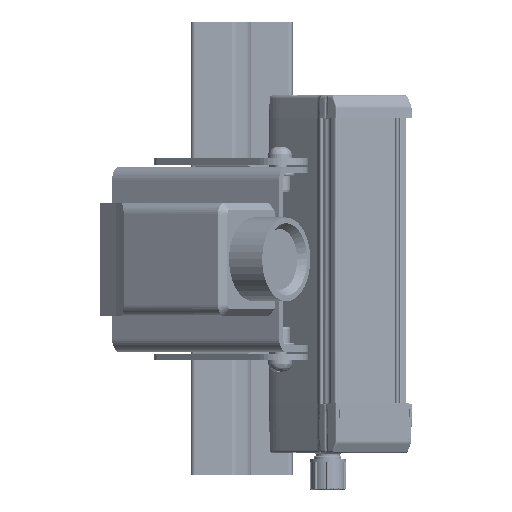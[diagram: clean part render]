
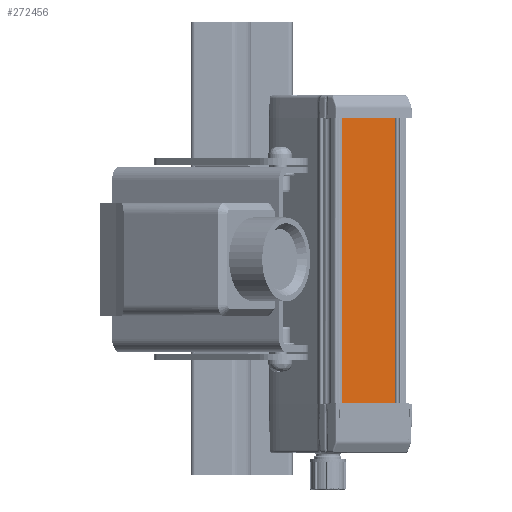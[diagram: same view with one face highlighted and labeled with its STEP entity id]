
A CAD part, left-side view. The second image highlights one B-rep face of the part: STEP entity #272456.
In plain terms, the highlighted planar face has unit normal (-0.707, -0.707, 0) as drawn and (0, 1, 0) by its records, which use the part's own axes.
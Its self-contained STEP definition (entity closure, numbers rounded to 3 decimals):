
#7477 = CARTESIAN_POINT ( 'NONE',  ( 19.2, 17., 131. ) ) ;
#12164 = EDGE_CURVE ( 'NONE', #197133, #236428, #110818, .T. ) ;
#14074 = EDGE_CURVE ( 'NONE', #236428, #271314, #172554, .T. ) ;
#17682 = EDGE_LOOP ( 'NONE', ( #127989, #29666, #106423, #296023 ) ) ;
#28019 = CARTESIAN_POINT ( 'NONE',  ( 19.2, 17., -5. ) ) ;
#29666 = ORIENTED_EDGE ( 'NONE', *, *, #158759, .T. ) ;
#33329 = CARTESIAN_POINT ( 'NONE',  ( 19.2, 17., -5. ) ) ;
#89325 = DIRECTION ( 'NONE',  ( 0., 0., 1. ) ) ;
#89711 = CARTESIAN_POINT ( 'NONE',  ( 19.2, 17., -5. ) ) ;
#106423 = ORIENTED_EDGE ( 'NONE', *, *, #180571, .T. ) ;
#110818 = LINE ( 'NONE', #89711, #172663 ) ;
#125023 = DIRECTION ( 'NONE',  ( 0., 1., 0. ) ) ;
#127989 = ORIENTED_EDGE ( 'NONE', *, *, #14074, .T. ) ;
#136094 = CARTESIAN_POINT ( 'NONE',  ( -18.9, 17., 131. ) ) ;
#141839 = FACE_OUTER_BOUND ( 'NONE', #17682, .T. ) ;
#148468 = DIRECTION ( 'NONE',  ( 1., 0., 0. ) ) ;
#152693 = CARTESIAN_POINT ( 'NONE',  ( 19.2, 17., 131. ) ) ;
#157401 = CARTESIAN_POINT ( 'NONE',  ( -18.9, 17., -5. ) ) ;
#158759 = EDGE_CURVE ( 'NONE', #271314, #236081, #204130, .T. ) ;
#172554 = LINE ( 'NONE', #33329, #251375 ) ;
#172663 = VECTOR ( 'NONE', #269751, 1000. ) ;
#180571 = EDGE_CURVE ( 'NONE', #236081, #197133, #287666, .T. ) ;
#195299 = CARTESIAN_POINT ( 'NONE',  ( -18.9, 17., -5. ) ) ;
#197133 = VERTEX_POINT ( 'NONE', #152693 ) ;
#204130 = LINE ( 'NONE', #157401, #265813 ) ;
#219403 = DIRECTION ( 'NONE',  ( -1., 0., 0. ) ) ;
#231964 = AXIS2_PLACEMENT_3D ( 'NONE', #285578, #125023, #259736 ) ;
#234086 = PLANE ( 'NONE',  #231964 ) ;
#236081 = VERTEX_POINT ( 'NONE', #136094 ) ;
#236428 = VERTEX_POINT ( 'NONE', #28019 ) ;
#249451 = VECTOR ( 'NONE', #148468, 1000. ) ;
#251375 = VECTOR ( 'NONE', #219403, 1000. ) ;
#259736 = DIRECTION ( 'NONE',  ( 0., 0., 1. ) ) ;
#265813 = VECTOR ( 'NONE', #89325, 1000. ) ;
#269751 = DIRECTION ( 'NONE',  ( 0., 0., -1. ) ) ;
#271314 = VERTEX_POINT ( 'NONE', #195299 ) ;
#272456 = ADVANCED_FACE ( 'NONE', ( #141839 ), #234086, .T. ) ;
#285578 = CARTESIAN_POINT ( 'NONE',  ( 19.2, 17., -5. ) ) ;
#287666 = LINE ( 'NONE', #7477, #249451 ) ;
#296023 = ORIENTED_EDGE ( 'NONE', *, *, #12164, .T. ) ;
